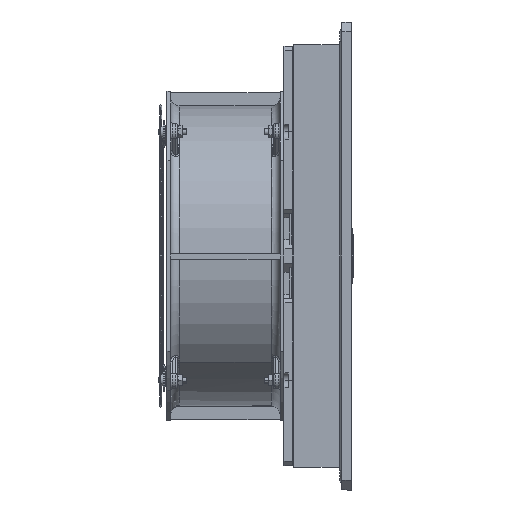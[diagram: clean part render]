
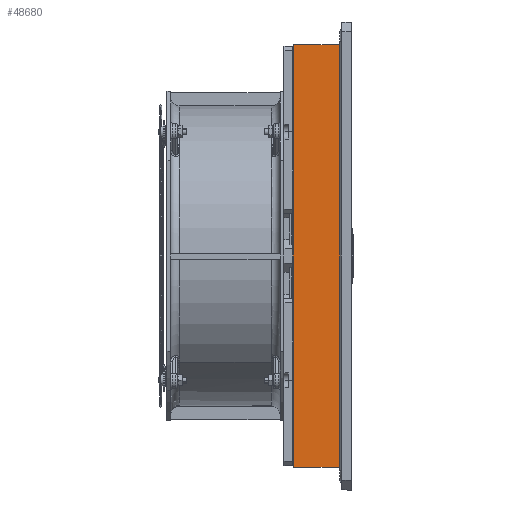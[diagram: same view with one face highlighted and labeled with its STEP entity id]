
A CAD part, left-side view. The second image highlights one B-rep face of the part: STEP entity #48680.
In plain terms, the highlighted planar face has unit normal (-1, 0, 0) as drawn and (0, 0, 1) by its records, which use the part's own axes.
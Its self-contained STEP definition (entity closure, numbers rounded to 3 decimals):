
#6780 = CARTESIAN_POINT ( 'NONE',  ( -144.5, -3., 144.5 ) ) ;
#6785 = DIRECTION ( 'NONE',  ( -1., 0., 0. ) ) ;
#6801 = DIRECTION ( 'NONE',  ( 0., -1., 0. ) ) ;
#6803 = VECTOR ( 'NONE', #6801, 1000. ) ;
#6805 = CARTESIAN_POINT ( 'NONE',  ( -144.5, 477.063, 144.5 ) ) ;
#6807 = LINE ( 'NONE', #6805, #6803 ) ;
#7061 = VECTOR ( 'NONE', #6785, 1000. ) ;
#7113 = CARTESIAN_POINT ( 'NONE',  ( -144.5, -3., 144.5 ) ) ;
#7115 = LINE ( 'NONE', #7113, #7061 ) ;
#10954 = DIRECTION ( 'NONE',  ( 1., 0., 0. ) ) ;
#10955 = DIRECTION ( 'NONE',  ( 0., 0., 1. ) ) ;
#10956 = CARTESIAN_POINT ( 'NONE',  ( -144.5, 477.063, 144.5 ) ) ;
#10960 = CARTESIAN_POINT ( 'NONE',  ( 144.5, -3., 144.5 ) ) ;
#10962 = AXIS2_PLACEMENT_3D ( 'NONE', #10956, #10955, #10954 ) ;
#10967 = PLANE ( 'NONE',  #10962 ) ;
#11020 = FACE_OUTER_BOUND ( 'NONE', #48376, .T. ) ;
#11041 = DIRECTION ( 'NONE',  ( 0., -1., 0. ) ) ;
#11042 = VECTOR ( 'NONE', #11041, 1000. ) ;
#11043 = CARTESIAN_POINT ( 'NONE',  ( 144.5, 477.063, 144.5 ) ) ;
#11045 = LINE ( 'NONE', #11043, #11042 ) ;
#46418 = VERTEX_POINT ( 'NONE', #82921 ) ;
#46974 = VERTEX_POINT ( 'NONE', #85053 ) ;
#46982 = EDGE_CURVE ( 'NONE', #46418, #46974, #84964, .T. ) ;
#48373 = EDGE_CURVE ( 'NONE', #46418, #48422, #6807, .T. ) ;
#48376 = EDGE_LOOP ( 'NONE', ( #48633, #48684, #48683, #48650 ) ) ;
#48420 = EDGE_CURVE ( 'NONE', #48669, #48422, #7115, .T. ) ;
#48422 = VERTEX_POINT ( 'NONE', #6780 ) ;
#48633 = ORIENTED_EDGE ( 'NONE', *, *, #48373, .T. ) ;
#48650 = ORIENTED_EDGE ( 'NONE', *, *, #46982, .F. ) ;
#48669 = VERTEX_POINT ( 'NONE', #10960 ) ;
#48680 = ADVANCED_FACE ( 'NONE', ( #11020 ), #10967, .T. ) ;
#48683 = ORIENTED_EDGE ( 'NONE', *, *, #48812, .F. ) ;
#48684 = ORIENTED_EDGE ( 'NONE', *, *, #48420, .F. ) ;
#48812 = EDGE_CURVE ( 'NONE', #46974, #48669, #11045, .T. ) ;
#82921 = CARTESIAN_POINT ( 'NONE',  ( -144.5, 30.5, 144.5 ) ) ;
#84961 = DIRECTION ( 'NONE',  ( 1., 0., 0. ) ) ;
#84962 = VECTOR ( 'NONE', #84961, 1000. ) ;
#84963 = CARTESIAN_POINT ( 'NONE',  ( -144.5, 30.5, 144.5 ) ) ;
#84964 = LINE ( 'NONE', #84963, #84962 ) ;
#85053 = CARTESIAN_POINT ( 'NONE',  ( 144.5, 30.5, 144.5 ) ) ;
